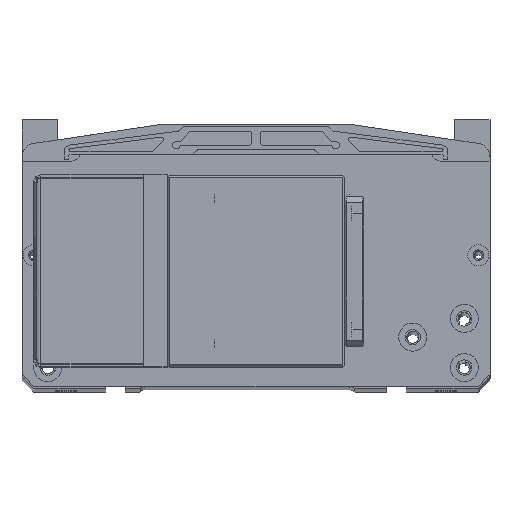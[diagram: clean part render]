
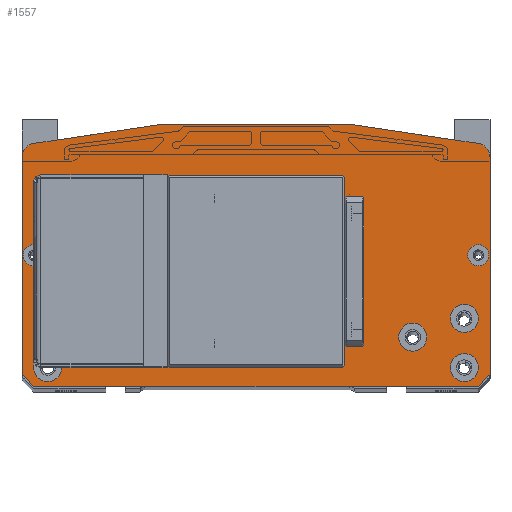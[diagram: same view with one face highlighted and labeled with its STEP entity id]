
A CAD part, top view. The second image highlights one B-rep face of the part: STEP entity #1557.
In plain terms, the highlighted planar face has unit normal (0, 0, 1).
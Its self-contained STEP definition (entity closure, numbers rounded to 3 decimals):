
#1557=ADVANCED_FACE('',(#5883,#5884,#5885,#5886,#5887,#5888,#5889,#5890,
#5891,#5892,#5893,#5894,#5895),#2558,.F.);
#2558=PLANE('',#18086);
#3025=LINE('',#25133,#4454);
#3026=LINE('',#25136,#4455);
#3027=LINE('',#25138,#4456);
#3028=LINE('',#25140,#4457);
#3029=LINE('',#25144,#4458);
#3030=LINE('',#25146,#4459);
#3031=LINE('',#25148,#4460);
#3032=LINE('',#25152,#4461);
#3033=LINE('',#25153,#4462);
#3034=LINE('',#25156,#4463);
#3035=LINE('',#25158,#4464);
#3036=LINE('',#25160,#4465);
#3037=LINE('',#25161,#4466);
#3038=LINE('',#25164,#4467);
#3039=LINE('',#25166,#4468);
#3040=LINE('',#25168,#4469);
#4454=VECTOR('',#19965,1.);
#4455=VECTOR('',#19966,1.);
#4456=VECTOR('',#19967,1.);
#4457=VECTOR('',#19968,1.);
#4458=VECTOR('',#19971,1.);
#4459=VECTOR('',#19972,1.);
#4460=VECTOR('',#19973,1.);
#4461=VECTOR('',#19976,1.);
#4462=VECTOR('',#19977,1.);
#4463=VECTOR('',#19978,1.);
#4464=VECTOR('',#19979,1.);
#4465=VECTOR('',#19980,1.);
#4466=VECTOR('',#19981,1.);
#4467=VECTOR('',#19982,1.);
#4468=VECTOR('',#19983,1.);
#4469=VECTOR('',#19984,1.);
#5883=FACE_BOUND('',#6577,.T.);
#5884=FACE_BOUND('',#6578,.T.);
#5885=FACE_BOUND('',#6579,.T.);
#5886=FACE_BOUND('',#6580,.T.);
#5887=FACE_BOUND('',#6581,.T.);
#5888=FACE_BOUND('',#6582,.T.);
#5889=FACE_BOUND('',#6583,.T.);
#5890=FACE_BOUND('',#6584,.T.);
#5891=FACE_BOUND('',#6585,.T.);
#5892=FACE_BOUND('',#6586,.T.);
#5893=FACE_BOUND('',#6587,.T.);
#5894=FACE_BOUND('',#6588,.T.);
#5895=FACE_BOUND('',#6589,.T.);
#6577=EDGE_LOOP('',(#7958));
#6578=EDGE_LOOP('',(#7959));
#6579=EDGE_LOOP('',(#7960));
#6580=EDGE_LOOP('',(#7961));
#6581=EDGE_LOOP('',(#7962));
#6582=EDGE_LOOP('',(#7963));
#6583=EDGE_LOOP('',(#7964));
#6584=EDGE_LOOP('',(#7965));
#6585=EDGE_LOOP('',(#7966));
#6586=EDGE_LOOP('',(#7967));
#6587=EDGE_LOOP('',(#7968,#7969,#7970,#7971,#7972,#7973,#7974,#7975,#7976,
#7977));
#6588=EDGE_LOOP('',(#7978,#7979,#7980,#7981));
#6589=EDGE_LOOP('',(#7982,#7983,#7984,#7985));
#7958=ORIENTED_EDGE('',*,*,#14696,.T.);
#7959=ORIENTED_EDGE('',*,*,#14697,.T.);
#7960=ORIENTED_EDGE('',*,*,#14698,.T.);
#7961=ORIENTED_EDGE('',*,*,#14699,.T.);
#7962=ORIENTED_EDGE('',*,*,#14700,.T.);
#7963=ORIENTED_EDGE('',*,*,#14701,.T.);
#7964=ORIENTED_EDGE('',*,*,#14702,.T.);
#7965=ORIENTED_EDGE('',*,*,#14703,.T.);
#7966=ORIENTED_EDGE('',*,*,#14704,.T.);
#7967=ORIENTED_EDGE('',*,*,#14705,.T.);
#7968=ORIENTED_EDGE('',*,*,#14706,.F.);
#7969=ORIENTED_EDGE('',*,*,#14707,.T.);
#7970=ORIENTED_EDGE('',*,*,#14708,.F.);
#7971=ORIENTED_EDGE('',*,*,#14709,.T.);
#7972=ORIENTED_EDGE('',*,*,#14710,.F.);
#7973=ORIENTED_EDGE('',*,*,#14711,.F.);
#7974=ORIENTED_EDGE('',*,*,#14712,.T.);
#7975=ORIENTED_EDGE('',*,*,#14713,.F.);
#7976=ORIENTED_EDGE('',*,*,#14714,.F.);
#7977=ORIENTED_EDGE('',*,*,#14715,.T.);
#7978=ORIENTED_EDGE('',*,*,#14716,.T.);
#7979=ORIENTED_EDGE('',*,*,#14717,.T.);
#7980=ORIENTED_EDGE('',*,*,#14718,.T.);
#7981=ORIENTED_EDGE('',*,*,#14719,.T.);
#7982=ORIENTED_EDGE('',*,*,#14720,.F.);
#7983=ORIENTED_EDGE('',*,*,#14721,.F.);
#7984=ORIENTED_EDGE('',*,*,#14722,.T.);
#7985=ORIENTED_EDGE('',*,*,#14723,.T.);
#12972=VERTEX_POINT('',#25114);
#12973=VERTEX_POINT('',#25116);
#12974=VERTEX_POINT('',#25118);
#12975=VERTEX_POINT('',#25120);
#12976=VERTEX_POINT('',#25122);
#12977=VERTEX_POINT('',#25124);
#12978=VERTEX_POINT('',#25126);
#12979=VERTEX_POINT('',#25128);
#12980=VERTEX_POINT('',#25130);
#12981=VERTEX_POINT('',#25132);
#12982=VERTEX_POINT('',#25134);
#12983=VERTEX_POINT('',#25135);
#12984=VERTEX_POINT('',#25137);
#12985=VERTEX_POINT('',#25139);
#12986=VERTEX_POINT('',#25141);
#12987=VERTEX_POINT('',#25143);
#12988=VERTEX_POINT('',#25145);
#12989=VERTEX_POINT('',#25147);
#12990=VERTEX_POINT('',#25149);
#12991=VERTEX_POINT('',#25151);
#12992=VERTEX_POINT('',#25154);
#12993=VERTEX_POINT('',#25155);
#12994=VERTEX_POINT('',#25157);
#12995=VERTEX_POINT('',#25159);
#12996=VERTEX_POINT('',#25162);
#12997=VERTEX_POINT('',#25163);
#12998=VERTEX_POINT('',#25165);
#12999=VERTEX_POINT('',#25167);
#14696=EDGE_CURVE('',#12972,#12972,#17203,.T.);
#14697=EDGE_CURVE('',#12973,#12973,#17204,.T.);
#14698=EDGE_CURVE('',#12974,#12974,#17205,.T.);
#14699=EDGE_CURVE('',#12975,#12975,#17206,.T.);
#14700=EDGE_CURVE('',#12976,#12976,#17207,.T.);
#14701=EDGE_CURVE('',#12977,#12977,#17208,.T.);
#14702=EDGE_CURVE('',#12978,#12978,#17209,.T.);
#14703=EDGE_CURVE('',#12979,#12979,#17210,.T.);
#14704=EDGE_CURVE('',#12980,#12980,#17211,.T.);
#14705=EDGE_CURVE('',#12981,#12981,#17212,.T.);
#14706=EDGE_CURVE('',#12982,#12983,#3025,.T.);
#14707=EDGE_CURVE('',#12982,#12984,#3026,.T.);
#14708=EDGE_CURVE('',#12985,#12984,#3027,.T.);
#14709=EDGE_CURVE('',#12985,#12986,#3028,.T.);
#14710=EDGE_CURVE('',#12987,#12986,#17213,.T.);
#14711=EDGE_CURVE('',#12988,#12987,#3029,.T.);
#14712=EDGE_CURVE('',#12988,#12989,#3030,.T.);
#14713=EDGE_CURVE('',#12990,#12989,#3031,.T.);
#14714=EDGE_CURVE('',#12991,#12990,#17214,.T.);
#14715=EDGE_CURVE('',#12991,#12983,#3032,.T.);
#14716=EDGE_CURVE('',#12992,#12993,#3033,.T.);
#14717=EDGE_CURVE('',#12993,#12994,#3034,.T.);
#14718=EDGE_CURVE('',#12994,#12995,#3035,.T.);
#14719=EDGE_CURVE('',#12995,#12992,#3036,.T.);
#14720=EDGE_CURVE('',#12996,#12997,#3037,.T.);
#14721=EDGE_CURVE('',#12998,#12996,#3038,.T.);
#14722=EDGE_CURVE('',#12998,#12999,#3039,.T.);
#14723=EDGE_CURVE('',#12999,#12997,#3040,.T.);
#17203=CIRCLE('',#18074,1.65);
#17204=CIRCLE('',#18075,1.65);
#17205=CIRCLE('',#18076,4.5);
#17206=CIRCLE('',#18077,4.5);
#17207=CIRCLE('',#18078,6.);
#17208=CIRCLE('',#18079,6.);
#17209=CIRCLE('',#18080,6.);
#17210=CIRCLE('',#18081,6.);
#17211=CIRCLE('',#18082,6.);
#17212=CIRCLE('',#18083,6.);
#17213=CIRCLE('',#18084,6.);
#17214=CIRCLE('',#18085,6.);
#18074=AXIS2_PLACEMENT_3D('',#25113,#19945,#19946);
#18075=AXIS2_PLACEMENT_3D('',#25115,#19947,#19948);
#18076=AXIS2_PLACEMENT_3D('',#25117,#19949,#19950);
#18077=AXIS2_PLACEMENT_3D('',#25119,#19951,#19952);
#18078=AXIS2_PLACEMENT_3D('',#25121,#19953,#19954);
#18079=AXIS2_PLACEMENT_3D('',#25123,#19955,#19956);
#18080=AXIS2_PLACEMENT_3D('',#25125,#19957,#19958);
#18081=AXIS2_PLACEMENT_3D('',#25127,#19959,#19960);
#18082=AXIS2_PLACEMENT_3D('',#25129,#19961,#19962);
#18083=AXIS2_PLACEMENT_3D('',#25131,#19963,#19964);
#18084=AXIS2_PLACEMENT_3D('',#25142,#19969,#19970);
#18085=AXIS2_PLACEMENT_3D('',#25150,#19974,#19975);
#18086=AXIS2_PLACEMENT_3D('',#25169,#19985,#19986);
#19945=DIRECTION('',(0.,0.,-1.));
#19946=DIRECTION('',(1.,0.,0.));
#19947=DIRECTION('',(0.,0.,-1.));
#19948=DIRECTION('',(1.,0.,0.));
#19949=DIRECTION('',(0.,0.,-1.));
#19950=DIRECTION('',(1.,0.,0.));
#19951=DIRECTION('',(0.,0.,-1.));
#19952=DIRECTION('',(1.,0.,0.));
#19953=DIRECTION('',(0.,0.,-1.));
#19954=DIRECTION('',(1.,0.,0.));
#19955=DIRECTION('',(0.,0.,-1.));
#19956=DIRECTION('',(1.,0.,0.));
#19957=DIRECTION('',(0.,0.,-1.));
#19958=DIRECTION('',(1.,0.,0.));
#19959=DIRECTION('',(0.,0.,-1.));
#19960=DIRECTION('',(1.,0.,0.));
#19961=DIRECTION('',(0.,0.,-1.));
#19962=DIRECTION('',(1.,0.,0.));
#19963=DIRECTION('',(0.,0.,-1.));
#19964=DIRECTION('',(1.,0.,0.));
#19965=DIRECTION('',(-0.707,0.707,0.));
#19966=DIRECTION('',(1.,0.,0.));
#19967=DIRECTION('',(-0.707,-0.707,0.));
#19968=DIRECTION('',(0.,1.,0.));
#19969=DIRECTION('',(0.,0.,-1.));
#19970=DIRECTION('',(0.148,0.989,0.));
#19971=DIRECTION('',(0.989,-0.148,0.));
#19972=DIRECTION('',(-1.,0.,0.));
#19973=DIRECTION('',(0.989,0.148,0.));
#19974=DIRECTION('',(0.,0.,-1.));
#19975=DIRECTION('',(-1.,0.,0.));
#19976=DIRECTION('',(0.,-1.,0.));
#19977=DIRECTION('',(0.,1.,0.));
#19978=DIRECTION('',(1.,0.,0.));
#19979=DIRECTION('',(0.,-1.,0.));
#19980=DIRECTION('',(-1.,0.,0.));
#19981=DIRECTION('',(0.,1.,0.));
#19982=DIRECTION('',(1.,0.,0.));
#19983=DIRECTION('',(0.,1.,0.));
#19984=DIRECTION('',(1.,0.,0.));
#19985=DIRECTION('',(0.,0.,-1.));
#19986=DIRECTION('',(-1.,0.,0.));
#25113=CARTESIAN_POINT('',(-42.,33.,463.));
#25114=CARTESIAN_POINT('',(-40.35,33.,463.));
#25115=CARTESIAN_POINT('',(-42.,69.,463.));
#25116=CARTESIAN_POINT('',(-40.35,69.,463.));
#25117=CARTESIAN_POINT('',(-95.,58.,463.));
#25118=CARTESIAN_POINT('',(-90.5,58.,463.));
#25119=CARTESIAN_POINT('',(95.,58.,463.));
#25120=CARTESIAN_POINT('',(99.5,58.,463.));
#25121=CARTESIAN_POINT('',(-67.,23.,463.));
#25122=CARTESIAN_POINT('',(-61.,23.,463.));
#25123=CARTESIAN_POINT('',(67.,23.,463.));
#25124=CARTESIAN_POINT('',(73.,23.,463.));
#25125=CARTESIAN_POINT('',(-89.,31.,463.));
#25126=CARTESIAN_POINT('',(-83.,31.,463.));
#25127=CARTESIAN_POINT('',(89.,31.,463.));
#25128=CARTESIAN_POINT('',(95.,31.,463.));
#25129=CARTESIAN_POINT('',(-89.,10.,463.));
#25130=CARTESIAN_POINT('',(-83.,10.,463.));
#25131=CARTESIAN_POINT('',(89.,10.,463.));
#25132=CARTESIAN_POINT('',(95.,10.,463.));
#25133=CARTESIAN_POINT('',(-95.,2.,463.));
#25134=CARTESIAN_POINT('',(-95.,2.,463.));
#25135=CARTESIAN_POINT('',(-100.,7.,463.));
#25136=CARTESIAN_POINT('',(67.5,2.,463.));
#25137=CARTESIAN_POINT('',(95.,2.,463.));
#25138=CARTESIAN_POINT('',(100.,7.,463.));
#25139=CARTESIAN_POINT('',(100.,7.,463.));
#25140=CARTESIAN_POINT('',(100.,7.,463.));
#25141=CARTESIAN_POINT('',(100.,99.833,463.));
#25142=CARTESIAN_POINT('',(94.,99.833,463.));
#25143=CARTESIAN_POINT('',(94.89,105.766,463.));
#25144=CARTESIAN_POINT('',(40.,114.,463.));
#25145=CARTESIAN_POINT('',(40.,114.,463.));
#25146=CARTESIAN_POINT('',(40.,114.,463.));
#25147=CARTESIAN_POINT('',(-40.,114.,463.));
#25148=CARTESIAN_POINT('',(-94.89,105.766,463.));
#25149=CARTESIAN_POINT('',(-94.89,105.766,463.));
#25150=CARTESIAN_POINT('',(-94.,99.833,463.));
#25151=CARTESIAN_POINT('',(-100.,99.833,463.));
#25152=CARTESIAN_POINT('',(-100.,99.833,463.));
#25153=CARTESIAN_POINT('',(-37.,91.,463.));
#25154=CARTESIAN_POINT('',(-37.,11.,463.));
#25155=CARTESIAN_POINT('',(-37.,91.,463.));
#25156=CARTESIAN_POINT('',(37.,91.,463.));
#25157=CARTESIAN_POINT('',(37.,91.,463.));
#25158=CARTESIAN_POINT('',(37.,11.,463.));
#25159=CARTESIAN_POINT('',(37.,11.,463.));
#25160=CARTESIAN_POINT('',(-37.,11.,463.));
#25161=CARTESIAN_POINT('',(45.5,80.466,463.));
#25162=CARTESIAN_POINT('',(45.5,21.534,463.));
#25163=CARTESIAN_POINT('',(45.5,80.466,463.));
#25164=CARTESIAN_POINT('',(45.5,21.534,463.));
#25165=CARTESIAN_POINT('',(38.5,21.534,463.));
#25166=CARTESIAN_POINT('',(38.5,80.466,463.));
#25167=CARTESIAN_POINT('',(38.5,80.466,463.));
#25168=CARTESIAN_POINT('',(45.5,80.466,463.));
#25169=CARTESIAN_POINT('',(0.,2.,463.));
